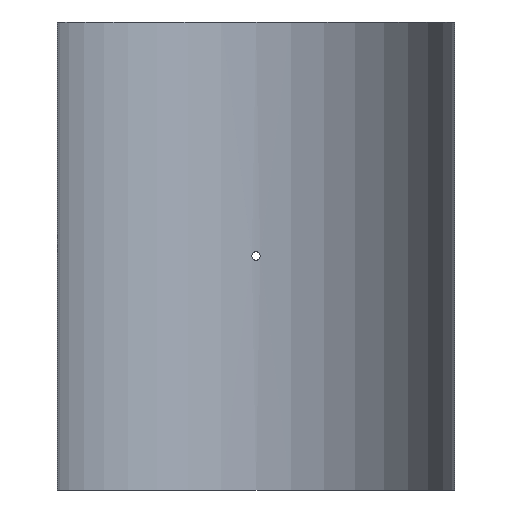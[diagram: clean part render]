
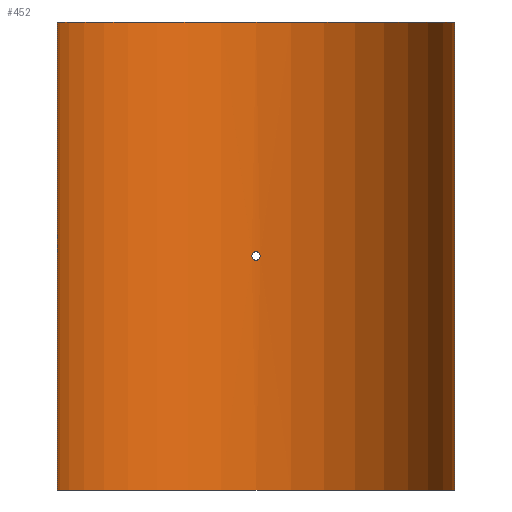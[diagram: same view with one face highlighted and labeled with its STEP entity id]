
A CAD part, front view. The second image highlights one B-rep face of the part: STEP entity #452.
In plain terms, the highlighted cylindrical face has radius 225 mm (diameter 450 mm), a partial arc.
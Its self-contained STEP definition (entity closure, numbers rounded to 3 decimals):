
#19=B_SPLINE_CURVE_WITH_KNOTS('',3,(#788,#789,#790,#791,#792,#793,#794,
#795,#796,#797,#798,#799,#800,#801,#802,#803,#804,#805,#806,#807,#808,#809,
#810,#811,#812,#813,#814,#815,#816,#817,#818,#819,#820,#821),
 .UNSPECIFIED.,.T.,.F.,(4,2,2,2,2,2,2,2,2,2,2,2,2,2,2,2,4),(0.,0.181,
0.362,0.542,0.723,0.904,
1.085,1.266,1.447,1.627,1.808,
1.989,2.17,2.351,2.531,2.712,
2.893),.UNSPECIFIED.);
#43=LINE('',#1073,#62);
#44=LINE('',#1076,#63);
#62=VECTOR('',#661,10.);
#63=VECTOR('',#664,10.);
#76=CYLINDRICAL_SURFACE('',#530,225.);
#88=FACE_BOUND('',#167,.T.);
#127=FACE_OUTER_BOUND('',#166,.T.);
#166=EDGE_LOOP('',(#405,#406,#407,#408));
#167=EDGE_LOOP('',(#409));
#201=CIRCLE('',#529,225.);
#202=CIRCLE('',#531,225.);
#219=VERTEX_POINT('',#786);
#242=VERTEX_POINT('',#1066);
#243=VERTEX_POINT('',#1068);
#244=VERTEX_POINT('',#1072);
#245=VERTEX_POINT('',#1074);
#267=EDGE_CURVE('',#219,#219,#19,.T.);
#299=EDGE_CURVE('',#242,#243,#201,.T.);
#301=EDGE_CURVE('',#244,#242,#43,.T.);
#302=EDGE_CURVE('',#245,#244,#202,.T.);
#303=EDGE_CURVE('',#245,#243,#44,.T.);
#405=ORIENTED_EDGE('',*,*,#301,.F.);
#406=ORIENTED_EDGE('',*,*,#302,.F.);
#407=ORIENTED_EDGE('',*,*,#303,.T.);
#408=ORIENTED_EDGE('',*,*,#299,.F.);
#409=ORIENTED_EDGE('',*,*,#267,.T.);
#452=ADVANCED_FACE('',(#127,#88),#76,.F.);
#529=AXIS2_PLACEMENT_3D('',#1069,#656,#657);
#530=AXIS2_PLACEMENT_3D('',#1071,#659,#660);
#531=AXIS2_PLACEMENT_3D('',#1075,#662,#663);
#656=DIRECTION('center_axis',(0.,0.,1.));
#657=DIRECTION('ref_axis',(1.,0.,0.));
#659=DIRECTION('center_axis',(0.,0.,1.));
#660=DIRECTION('ref_axis',(1.,0.,0.));
#661=DIRECTION('',(0.,0.,-1.));
#662=DIRECTION('center_axis',(0.,0.,-1.));
#663=DIRECTION('ref_axis',(1.,0.,0.));
#664=DIRECTION('',(0.,0.,-1.));
#786=CARTESIAN_POINT('',(4.8,224.949,0.));
#788=CARTESIAN_POINT('Ctrl Pts',(4.8,224.949,0.));
#789=CARTESIAN_POINT('Ctrl Pts',(4.8,224.949,-0.603));
#790=CARTESIAN_POINT('Ctrl Pts',(4.68,224.951,-1.246));
#791=CARTESIAN_POINT('Ctrl Pts',(4.19,224.961,-2.428));
#792=CARTESIAN_POINT('Ctrl Pts',(3.82,224.968,-2.968));
#793=CARTESIAN_POINT('Ctrl Pts',(2.968,224.981,-3.82));
#794=CARTESIAN_POINT('Ctrl Pts',(2.428,224.988,-4.19));
#795=CARTESIAN_POINT('Ctrl Pts',(1.246,224.997,-4.68));
#796=CARTESIAN_POINT('Ctrl Pts',(0.603,225.,-4.8));
#797=CARTESIAN_POINT('Ctrl Pts',(-0.603,225.,-4.8));
#798=CARTESIAN_POINT('Ctrl Pts',(-1.246,224.997,-4.68));
#799=CARTESIAN_POINT('Ctrl Pts',(-2.428,224.988,-4.19));
#800=CARTESIAN_POINT('Ctrl Pts',(-2.968,224.981,-3.82));
#801=CARTESIAN_POINT('Ctrl Pts',(-3.82,224.968,-2.968));
#802=CARTESIAN_POINT('Ctrl Pts',(-4.19,224.961,-2.428));
#803=CARTESIAN_POINT('Ctrl Pts',(-4.68,224.951,-1.246));
#804=CARTESIAN_POINT('Ctrl Pts',(-4.8,224.949,-0.603));
#805=CARTESIAN_POINT('Ctrl Pts',(-4.8,224.949,0.603));
#806=CARTESIAN_POINT('Ctrl Pts',(-4.68,224.951,1.246));
#807=CARTESIAN_POINT('Ctrl Pts',(-4.19,224.961,2.428));
#808=CARTESIAN_POINT('Ctrl Pts',(-3.82,224.968,2.968));
#809=CARTESIAN_POINT('Ctrl Pts',(-2.968,224.981,3.82));
#810=CARTESIAN_POINT('Ctrl Pts',(-2.428,224.988,4.19));
#811=CARTESIAN_POINT('Ctrl Pts',(-1.246,224.997,4.68));
#812=CARTESIAN_POINT('Ctrl Pts',(-0.603,225.,4.8));
#813=CARTESIAN_POINT('Ctrl Pts',(0.603,225.,4.8));
#814=CARTESIAN_POINT('Ctrl Pts',(1.246,224.997,4.68));
#815=CARTESIAN_POINT('Ctrl Pts',(2.428,224.988,4.19));
#816=CARTESIAN_POINT('Ctrl Pts',(2.968,224.981,3.82));
#817=CARTESIAN_POINT('Ctrl Pts',(3.82,224.968,2.968));
#818=CARTESIAN_POINT('Ctrl Pts',(4.19,224.961,2.428));
#819=CARTESIAN_POINT('Ctrl Pts',(4.68,224.951,1.246));
#820=CARTESIAN_POINT('Ctrl Pts',(4.8,224.949,0.603));
#821=CARTESIAN_POINT('Ctrl Pts',(4.8,224.949,0.));
#1066=CARTESIAN_POINT('',(225.,0.,-265.));
#1068=CARTESIAN_POINT('',(-225.,0.,-265.));
#1069=CARTESIAN_POINT('Origin',(0.,0.,
-265.));
#1071=CARTESIAN_POINT('Origin',(0.,0.,
0.));
#1072=CARTESIAN_POINT('',(225.,0.,265.));
#1073=CARTESIAN_POINT('',(225.,0.,0.));
#1074=CARTESIAN_POINT('',(-225.,0.,265.));
#1075=CARTESIAN_POINT('Origin',(0.,0.,
265.));
#1076=CARTESIAN_POINT('',(-225.,0.,0.));
